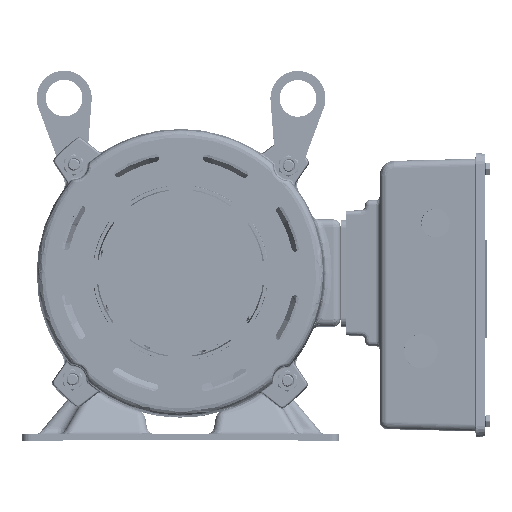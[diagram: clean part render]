
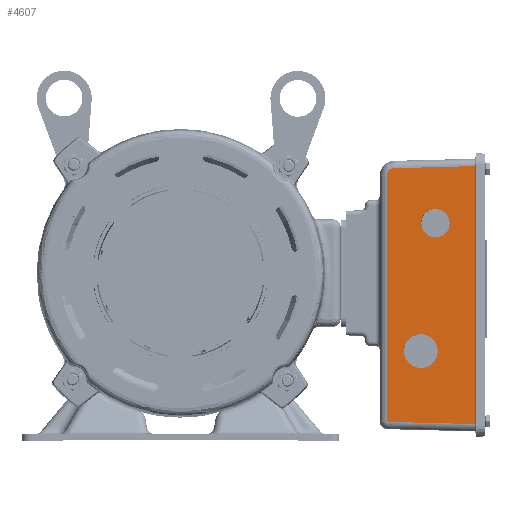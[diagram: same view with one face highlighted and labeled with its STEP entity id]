
A CAD part, top view. The second image highlights one B-rep face of the part: STEP entity #4607.
In plain terms, the highlighted planar face has unit normal (-0.026, -0.002, 1).
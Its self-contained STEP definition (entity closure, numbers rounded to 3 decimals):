
#2816 = CARTESIAN_POINT ( 'NONE',  ( 54.242, 125.501, -25.039 ) ) ;
#4607 = ADVANCED_FACE ( 'NONE', ( #5289, #59503, #113702 ), #167853, .T. ) ;
#4819 = CARTESIAN_POINT ( 'NONE',  ( 109.634, 126.959, -23.586 ) ) ;
#5289 = FACE_OUTER_BOUND ( 'NONE', #147992, .T. ) ;
#7014 = LINE ( 'NONE', #61252, #63026 ) ;
#7133 = VERTEX_POINT ( 'NONE', #153789 ) ;
#14718 = DIRECTION ( 'NONE',  ( -0.026, -0.002, 1. ) ) ;
#20665 = DIRECTION ( 'NONE',  ( -0.026, -0.002, 1. ) ) ;
#21999 = VERTEX_POINT ( 'NONE', #111670 ) ;
#24176 = DIRECTION ( 'NONE',  ( 0., 1., 0.002 ) ) ;
#27652 = ORIENTED_EDGE ( 'NONE', *, *, #145147, .F. ) ;
#31746 = EDGE_CURVE ( 'NONE', #157930, #32382, #57852, .T. ) ;
#32382 = VERTEX_POINT ( 'NONE', #145007 ) ;
#32441 = EDGE_CURVE ( 'NONE', #141839, #56550, #39250, .T. ) ;
#32850 = VECTOR ( 'NONE', #59032, 1000. ) ;
#35902 = VERTEX_POINT ( 'NONE', #150324 ) ;
#37888 = ORIENTED_EDGE ( 'NONE', *, *, #87462, .T. ) ;
#39250 = LINE ( 'NONE', #93479, #151185 ) ;
#42495 = ORIENTED_EDGE ( 'NONE', *, *, #31746, .F. ) ;
#45033 = ORIENTED_EDGE ( 'NONE', *, *, #92808, .T. ) ;
#45825 = AXIS2_PLACEMENT_3D ( 'NONE', #47425, #101682, #155857 ) ;
#45904 = CARTESIAN_POINT ( 'NONE',  ( 49.373, 123.37, -25.17 ) ) ;
#46118 = CARTESIAN_POINT ( 'NONE',  ( 109.503, 131.954, -23.58 ) ) ;
#47425 = CARTESIAN_POINT ( 'NONE',  ( 72.388, 0.9, -24.792 ) ) ;
#47939 = AXIS2_PLACEMENT_3D ( 'NONE', #46118, #100369, #154592 ) ;
#50793 = EDGE_CURVE ( 'NONE', #7133, #21999, #91690, .T. ) ;
#55411 = EDGE_LOOP ( 'NONE', ( #69461, #42495 ) ) ;
#55786 = EDGE_CURVE ( 'NONE', #32382, #157930, #75583, .T. ) ;
#56550 = VERTEX_POINT ( 'NONE', #93316 ) ;
#57852 = CIRCLE ( 'NONE', #157203, 9.723 ) ;
#57860 = CARTESIAN_POINT ( 'NONE',  ( 72.388, 0.9, -24.792 ) ) ;
#58748 = AXIS2_PLACEMENT_3D ( 'NONE', #57860, #112101, #166268 ) ;
#59032 = DIRECTION ( 'NONE',  ( -0.999, -0.026, -0.026 ) ) ;
#59503 = FACE_BOUND ( 'NONE', #55411, .T. ) ;
#61252 = CARTESIAN_POINT ( 'NONE',  ( 104.808, -48.716, -24.034 ) ) ;
#62379 = ORIENTED_EDGE ( 'NONE', *, *, #32441, .T. ) ;
#63026 = VECTOR ( 'NONE', #115463, 1000. ) ;
#63802 = VECTOR ( 'NONE', #24176, 1000. ) ;
#64919 = VERTEX_POINT ( 'NONE', #114916 ) ;
#68943 = DIRECTION ( 'NONE',  ( -1., 0., -0.026 ) ) ;
#69461 = ORIENTED_EDGE ( 'NONE', *, *, #55786, .F. ) ;
#74909 = DIRECTION ( 'NONE',  ( -1., 0., -0.026 ) ) ;
#75583 = CIRCLE ( 'NONE', #174863, 9.723 ) ;
#82497 =( BOUNDED_CURVE ( )  B_SPLINE_CURVE ( 3, ( #113492, #167647, #45904, #100149 ),
 .UNSPECIFIED., .F., .F. ) 
 B_SPLINE_CURVE_WITH_KNOTS ( ( 4, 4 ),
 ( 1.597, 3.142 ),
 .UNSPECIFIED. ) 
 CURVE ( )  GEOMETRIC_REPRESENTATION_ITEM ( )  RATIONAL_B_SPLINE_CURVE ( ( 1., 0.811, 0.811, 1. ) ) 
 REPRESENTATION_ITEM ( '' )  );
#86579 = VERTEX_POINT ( 'NONE', #2816 ) ;
#87462 = EDGE_CURVE ( 'NONE', #86579, #141839, #82497, .T. ) ;
#91690 = LINE ( 'NONE', #145872, #63802 ) ;
#92808 = EDGE_CURVE ( 'NONE', #56550, #7133, #7014, .T. ) ;
#93316 = CARTESIAN_POINT ( 'NONE',  ( 49.405, -47.272, -25.482 ) ) ;
#93479 = CARTESIAN_POINT ( 'NONE',  ( 49.372, 131.946, -25.155 ) ) ;
#100149 = CARTESIAN_POINT ( 'NONE',  ( 49.374, 120.502, -25.176 ) ) ;
#100369 = DIRECTION ( 'NONE',  ( -0.026, -0.002, 1. ) ) ;
#101682 = DIRECTION ( 'NONE',  ( -0.026, -0.002, 1. ) ) ;
#105123 = EDGE_CURVE ( 'NONE', #21999, #86579, #126574, .T. ) ;
#111107 = ORIENTED_EDGE ( 'NONE', *, *, #156590, .F. ) ;
#111670 = CARTESIAN_POINT ( 'NONE',  ( 109.017, 126.943, -23.602 ) ) ;
#112101 = DIRECTION ( 'NONE',  ( -0.026, -0.002, 1. ) ) ;
#113492 = CARTESIAN_POINT ( 'NONE',  ( 54.242, 125.501, -25.039 ) ) ;
#113702 = FACE_BOUND ( 'NONE', #144534, .T. ) ;
#114916 = CARTESIAN_POINT ( 'NONE',  ( 60.892, 0.899, -25.093 ) ) ;
#115463 = DIRECTION ( 'NONE',  ( 0.999, -0.026, 0.026 ) ) ;
#122480 = CIRCLE ( 'NONE', #45825, 11.5 ) ;
#126574 = LINE ( 'NONE', #4819, #32850 ) ;
#135368 = CIRCLE ( 'NONE', #58748, 11.5 ) ;
#136452 = CARTESIAN_POINT ( 'NONE',  ( 82.303, 88.055, -24.373 ) ) ;
#136608 = CARTESIAN_POINT ( 'NONE',  ( 49.374, 120.502, -25.176 ) ) ;
#141839 = VERTEX_POINT ( 'NONE', #136608 ) ;
#142404 = CARTESIAN_POINT ( 'NONE',  ( 82.303, 88.055, -24.373 ) ) ;
#144534 = EDGE_LOOP ( 'NONE', ( #27652, #111107 ) ) ;
#144916 = CARTESIAN_POINT ( 'NONE',  ( 92.023, 88.056, -24.118 ) ) ;
#145007 = CARTESIAN_POINT ( 'NONE',  ( 72.583, 88.053, -24.627 ) ) ;
#145147 = EDGE_CURVE ( 'NONE', #64919, #35902, #135368, .T. ) ;
#145872 = CARTESIAN_POINT ( 'NONE',  ( 109.049, -48.839, -23.923 ) ) ;
#147640 = DIRECTION ( 'NONE',  ( 0., -1., -0.002 ) ) ;
#147992 = EDGE_LOOP ( 'NONE', ( #168850, #37888, #62379, #45033, #171553 ) ) ;
#150324 = CARTESIAN_POINT ( 'NONE',  ( 83.884, 0.902, -24.491 ) ) ;
#151185 = VECTOR ( 'NONE', #147640, 1000. ) ;
#153789 = CARTESIAN_POINT ( 'NONE',  ( 109.049, -48.826, -23.923 ) ) ;
#154592 = DIRECTION ( 'NONE',  ( -0.07, 0.998, 0. ) ) ;
#155857 = DIRECTION ( 'NONE',  ( -1., 0., -0.026 ) ) ;
#156590 = EDGE_CURVE ( 'NONE', #35902, #64919, #122480, .T. ) ;
#157203 = AXIS2_PLACEMENT_3D ( 'NONE', #136452, #14718, #68943 ) ;
#157930 = VERTEX_POINT ( 'NONE', #144916 ) ;
#166268 = DIRECTION ( 'NONE',  ( -1., 0., -0.026 ) ) ;
#167647 = CARTESIAN_POINT ( 'NONE',  ( 51.374, 125.425, -25.114 ) ) ;
#167853 = PLANE ( 'NONE',  #47939 ) ;
#168850 = ORIENTED_EDGE ( 'NONE', *, *, #105123, .T. ) ;
#171553 = ORIENTED_EDGE ( 'NONE', *, *, #50793, .T. ) ;
#174863 = AXIS2_PLACEMENT_3D ( 'NONE', #142404, #20665, #74909 ) ;
